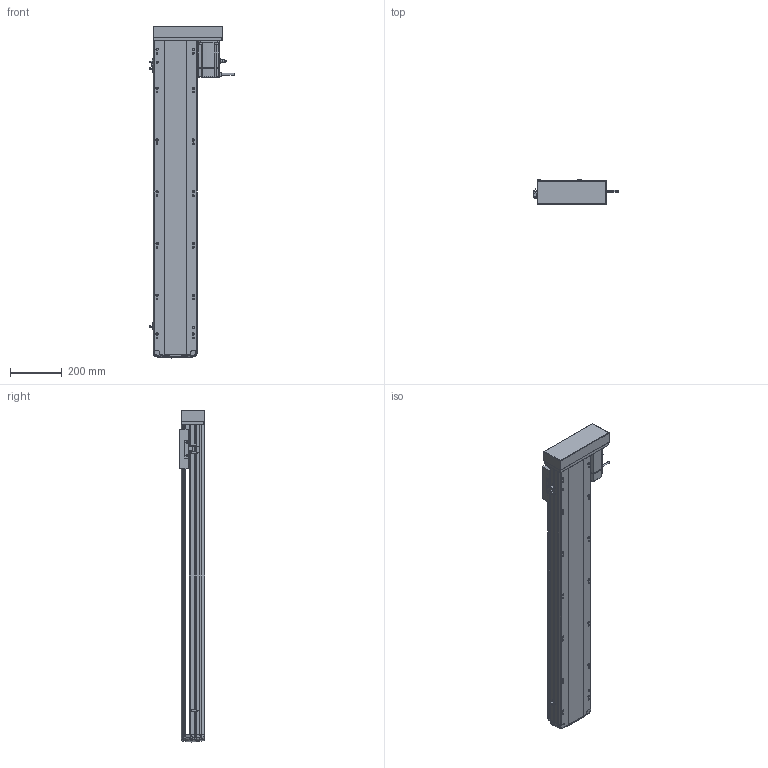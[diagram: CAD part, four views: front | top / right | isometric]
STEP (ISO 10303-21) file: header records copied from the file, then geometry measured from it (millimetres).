
FILE_DESCRIPTION (( 'STEP AP214' ), '1' );
FILE_NAME ('RTH17-XX-1000-L-M75-C4.STEP', '2025-10-24T10:35:31', ( '' ), ( '' ), 'SwSTEP 2.0', 'SolidWorks 2018', '' );
FILE_SCHEMA (( 'AUTOMOTIVE_DESIGN' ));
Length unit declared in the file: millimetre
Products named in the file (10): N_M75^RTH17-XX-XX-L-M75-C4（方程式）; N_RTH17-GY-001P^RTH17-XX-XX-L-M75-C4（方程式）; N_OMRON EE-SX672 換覜ん^RTH17-XX-XX-L-M75-C4ㄗ源最宒ㄘ; N_RTH-L-012 感应片(外置)^RTH17-XX-XX-L-M75-C4（方程式）; RTH17-XX-1000-L-M75-C4; N_RTH17-E-004丝杆螺母连接座^RTH17-XX-XX-L-M75-C4（方程式）; N_RTH17-M-011底座^RTH17-XX-XX-L-M75-C4（方程式）; N_RTH17-L-008-P75电机安装板左转折^RTH17-XX-XX-L-M75-C4（方程式）; N_RTH17-L-018盖子^RTH17-XX-XX-L-M75-C4（方程式）; N_RTH17-M-007上盖^RTH17-XX-XX-L-M75-C4（方程式）
Assembly tree (11 placements, depth 2):
  RTH17-XX-1000-L-M75-C4
    N_RTH17-M-011底座^RTH17-XX-XX-L-M75-C4（方程式）
    N_RTH17-M-007上盖^RTH17-XX-XX-L-M75-C4（方程式）
    N_M75^RTH17-XX-XX-L-M75-C4（方程式）
    N_OMRON EE-SX672 換覜ん^RTH17-XX-XX-L-M75-C4ㄗ源最宒ㄘ  x3
    N_RTH-L-012 感应片(外置)^RTH17-XX-XX-L-M75-C4（方程式）
    N_RTH17-L-008-P75电机安装板左转折^RTH17-XX-XX-L-M75-C4（方程式）
    N_RTH17-L-018盖子^RTH17-XX-XX-L-M75-C4（方程式）
    N_RTH17-E-004丝杆螺母连接座^RTH17-XX-XX-L-M75-C4（方程式）
    N_RTH17-GY-001P^RTH17-XX-XX-L-M75-C4（方程式）
Bounding box: 326.7 x 97 x 1282.99 mm (x, y, z)
Volume: 11259087.1 mm3; surface area: 1409901.5 mm2
Topology: 13 solids, 15 shells, 1773 faces, 4889 edges, 3166 vertices
Faces by surface type: plane 835, cylinder 524, bspline 377, cone 28, torus 9
Entity records: 51993 total; most frequent: CARTESIAN_POINT 20749, ORIENTED_EDGE 6802, DIRECTION 5653, EDGE_CURVE 3405, VERTEX_POINT 2202, AXIS2_PLACEMENT_3D 1909, VECTOR 1835, LINE 1835
